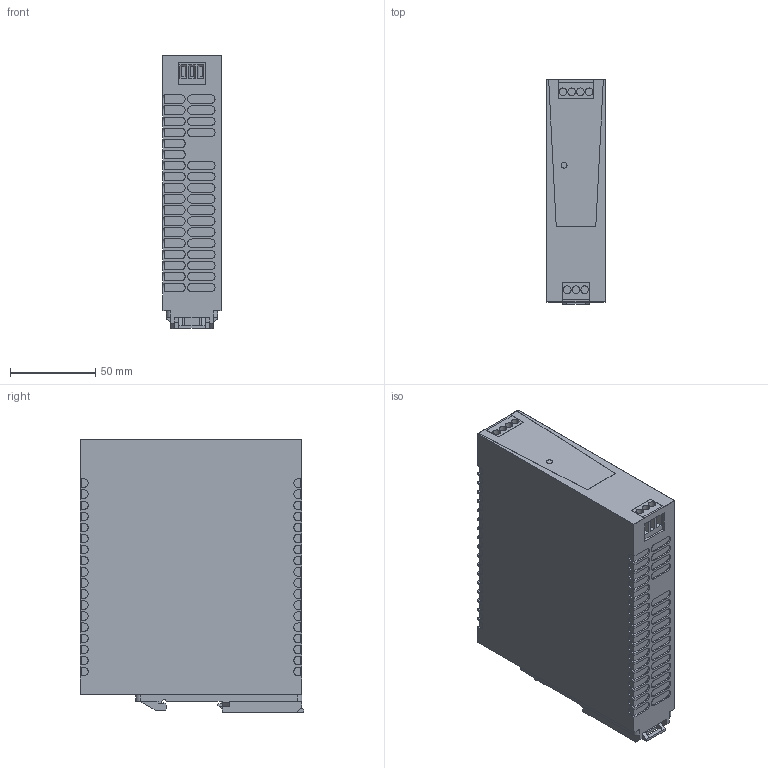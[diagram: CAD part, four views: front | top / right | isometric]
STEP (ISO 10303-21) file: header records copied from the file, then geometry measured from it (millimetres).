
FILE_DESCRIPTION(('CATIA V5 STEP Exchange','CAx-IF Rec.Pracs.--- Model Styling and Organization---1.4--- 2014-01-23'),'2;1');
FILE_NAME ('D1383901_1_1222240010_S3D_CP_M_CAP_MF.stp','2019-07-17T13:50:40+00:00',('none'),('Weidmueller'),'CATIA Version 5-6 Release 2016 SP3 HF44','CATIA V5 STEP AP214','none');
FILE_SCHEMA(('AUTOMOTIVE_DESIGN { 1 0 10303 214 1 1 1 1 }'));
Length unit declared in the file: millimetre
Products named in the file (1): 1222240010
Bounding box: 34 x 131.2 x 160.1 mm (x, y, z)
Volume: 672118.8 mm3; surface area: 79080.4 mm2
Topology: 7 solids, 7 shells, 594 faces, 1681 edges, 1148 vertices
Faces by surface type: plane 435, cylinder 159
Entity records: 18265 total; most frequent: ORIENTED_EDGE 3362, CARTESIAN_POINT 3188, DIRECTION 2322, EDGE_CURVE 1681, VECTOR 1338, LINE 1338, VERTEX_POINT 1148, AXIS2_PLACEMENT_3D 652
